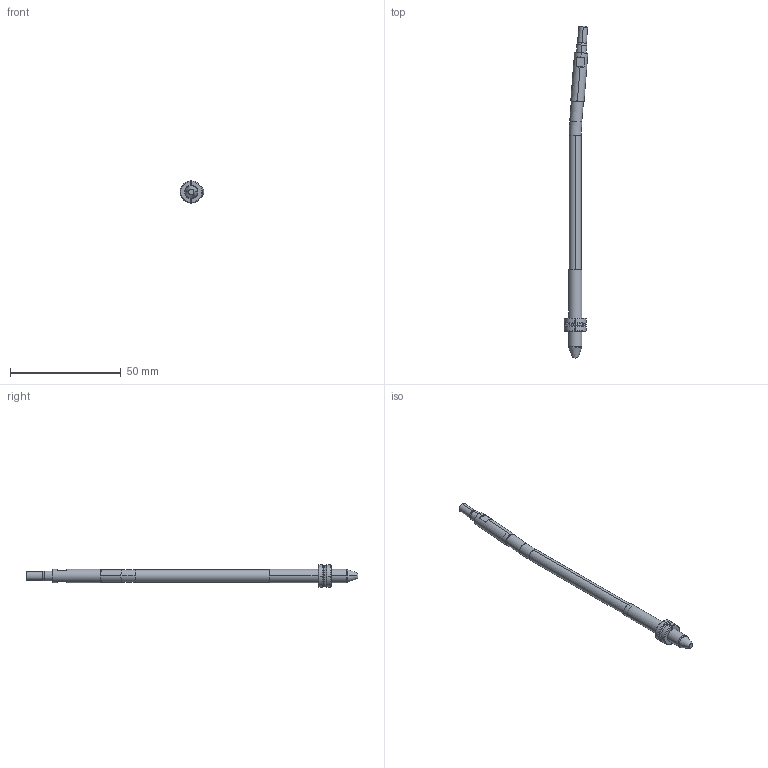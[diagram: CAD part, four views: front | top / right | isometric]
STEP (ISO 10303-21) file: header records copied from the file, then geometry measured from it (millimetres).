
FILE_DESCRIPTION (( 'STEP AP214' ), '1' );
FILE_NAME ('WP060060-INJ 4,5°.STEP', '2021-03-19T15:17:01', ( '' ), ( '' ), 'SwSTEP 2.0', 'SolidWorks 2019', '' );
FILE_SCHEMA (( 'AUTOMOTIVE_DESIGN' ));
Length unit declared in the file: millimetre
Products named in the file (6): WEB-001-9WP060030-1; WP060060-INJ 4,5°; WEB-006-9WP060030-6; WEB-007-9WP060060-F_WP060060-F-OFF 4,5ø; WEB-008-JUNTA-JT7X1X9; WEB-002-9WP060030-2
Assembly tree (5 placements, depth 2):
  WP060060-INJ 4,5°
    WEB-001-9WP060030-1
    WEB-007-9WP060060-F_WP060060-F-OFF 4,5ø
    WEB-002-9WP060030-2
    WEB-006-9WP060030-6
    WEB-008-JUNTA-JT7X1X9
Bounding box: 10.68 x 149.79 x 9.99 mm (x, y, z)
Volume: 3873.9 mm3; surface area: 3434.3 mm2
Topology: 6 solids, 6 shells, 112 faces, 262 edges, 164 vertices
Faces by surface type: cylinder 36, cone 28, plane 28, torus 20
Entity records: 3723 total; most frequent: CARTESIAN_POINT 714, DIRECTION 598, ORIENTED_EDGE 524, EDGE_CURVE 262, AXIS2_PLACEMENT_3D 256, VERTEX_POINT 164, CIRCLE 136, EDGE_LOOP 116
